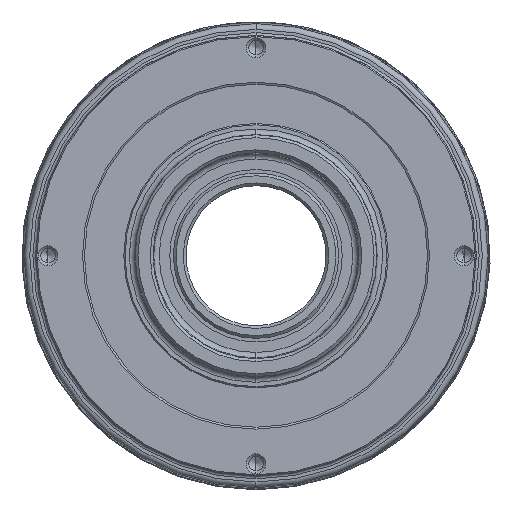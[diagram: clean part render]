
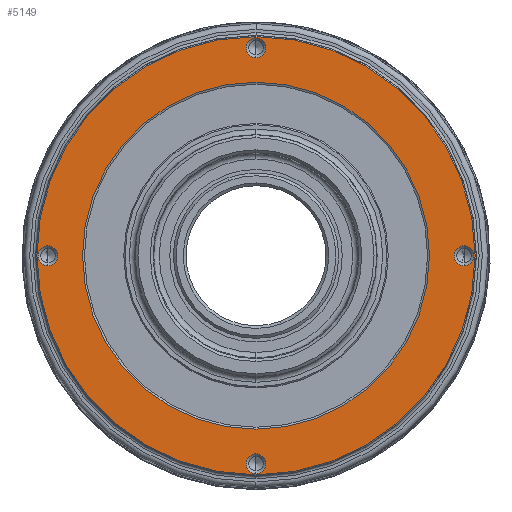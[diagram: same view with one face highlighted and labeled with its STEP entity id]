
A CAD part, front view. The second image highlights one B-rep face of the part: STEP entity #5149.
In plain terms, the highlighted planar face has unit normal (0, -1, 0).
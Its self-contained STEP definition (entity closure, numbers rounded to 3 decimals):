
#95 = ORIENTED_EDGE ( 'NONE', *, *, #10708, .T. ) ;
#112 = ORIENTED_EDGE ( 'NONE', *, *, #3949, .T. ) ;
#142 = CIRCLE ( 'NONE', #12187, 39.76 ) ;
#155 = DIRECTION ( 'NONE',  ( 0., 1., 0. ) ) ;
#158 = DIRECTION ( 'NONE',  ( 0., -1., 0. ) ) ;
#307 = DIRECTION ( 'NONE',  ( 0., 1., 0. ) ) ;
#382 = FACE_OUTER_BOUND ( 'NONE', #9178, .T. ) ;
#573 = VERTEX_POINT ( 'NONE', #11462 ) ;
#637 = DIRECTION ( 'NONE',  ( 0., -1., 0. ) ) ;
#747 = CARTESIAN_POINT ( 'NONE',  ( 37.75, 8., 0. ) ) ;
#883 = VERTEX_POINT ( 'NONE', #11224 ) ;
#1075 = EDGE_LOOP ( 'NONE', ( #6481, #12718 ) ) ;
#1127 = CARTESIAN_POINT ( 'NONE',  ( 0., 8., 0. ) ) ;
#1215 = DIRECTION ( 'NONE',  ( 0., 0., -1. ) ) ;
#1234 = CIRCLE ( 'NONE', #2800, 1.8 ) ;
#1239 = CARTESIAN_POINT ( 'NONE',  ( 37.75, 8., -1.8 ) ) ;
#1273 = CARTESIAN_POINT ( 'NONE',  ( 0., 8., 37.75 ) ) ;
#1295 = CARTESIAN_POINT ( 'NONE',  ( 0., 8., 37.75 ) ) ;
#1623 = AXIS2_PLACEMENT_3D ( 'NONE', #747, #11275, #2521 ) ;
#1647 = EDGE_CURVE ( 'NONE', #2464, #8685, #1234, .T. ) ;
#1689 = VERTEX_POINT ( 'NONE', #1239 ) ;
#2116 = EDGE_LOOP ( 'NONE', ( #5390, #112 ) ) ;
#2175 = AXIS2_PLACEMENT_3D ( 'NONE', #2336, #158, #1215 ) ;
#2213 = EDGE_CURVE ( 'NONE', #7012, #5434, #7005, .T. ) ;
#2236 = CARTESIAN_POINT ( 'NONE',  ( -37.75, 8., 1.8 ) ) ;
#2336 = CARTESIAN_POINT ( 'NONE',  ( 0., 8., 0. ) ) ;
#2464 = VERTEX_POINT ( 'NONE', #12401 ) ;
#2521 = DIRECTION ( 'NONE',  ( 0., 0., -1. ) ) ;
#2554 = CIRCLE ( 'NONE', #12286, 1.8 ) ;
#2675 = AXIS2_PLACEMENT_3D ( 'NONE', #1127, #12675, #4343 ) ;
#2711 = FACE_BOUND ( 'NONE', #1075, .T. ) ;
#2796 = CARTESIAN_POINT ( 'NONE',  ( 0., 8., 35.95 ) ) ;
#2800 = AXIS2_PLACEMENT_3D ( 'NONE', #4616, #12073, #5635 ) ;
#2829 = AXIS2_PLACEMENT_3D ( 'NONE', #13620, #3043, #11554 ) ;
#2948 = CIRCLE ( 'NONE', #1623, 1.8 ) ;
#3043 = DIRECTION ( 'NONE',  ( 0., 1., 0. ) ) ;
#3109 = EDGE_LOOP ( 'NONE', ( #10025, #95 ) ) ;
#3177 = AXIS2_PLACEMENT_3D ( 'NONE', #1273, #307, #5523 ) ;
#3442 = CARTESIAN_POINT ( 'NONE',  ( 0., 8., -37.75 ) ) ;
#3709 = ORIENTED_EDGE ( 'NONE', *, *, #4751, .F. ) ;
#3894 = EDGE_CURVE ( 'NONE', #4183, #6146, #9028, .T. ) ;
#3949 = EDGE_CURVE ( 'NONE', #8685, #2464, #11529, .T. ) ;
#4183 = VERTEX_POINT ( 'NONE', #2796 ) ;
#4343 = DIRECTION ( 'NONE',  ( 0., 0., -1. ) ) ;
#4616 = CARTESIAN_POINT ( 'NONE',  ( -37.75, 8., 0. ) ) ;
#4751 = EDGE_CURVE ( 'NONE', #5434, #7012, #8362, .T. ) ;
#4844 = CARTESIAN_POINT ( 'NONE',  ( 37.75, 8., 0. ) ) ;
#4848 = DIRECTION ( 'NONE',  ( 0., 0., -1. ) ) ;
#5066 = CIRCLE ( 'NONE', #8990, 1.8 ) ;
#5149 = ADVANCED_FACE ( 'NONE', ( #5510, #2711, #11513, #10508, #12181, #382 ), #11212, .T. ) ;
#5390 = ORIENTED_EDGE ( 'NONE', *, *, #1647, .T. ) ;
#5434 = VERTEX_POINT ( 'NONE', #13742 ) ;
#5510 = FACE_BOUND ( 'NONE', #2116, .T. ) ;
#5523 = DIRECTION ( 'NONE',  ( 0., 0., -1. ) ) ;
#5569 = EDGE_CURVE ( 'NONE', #8483, #11324, #2554, .T. ) ;
#5608 = DIRECTION ( 'NONE',  ( 0., 0., -1. ) ) ;
#5635 = DIRECTION ( 'NONE',  ( 0., 0., -1. ) ) ;
#5855 = AXIS2_PLACEMENT_3D ( 'NONE', #9070, #637, #10138 ) ;
#5916 = DIRECTION ( 'NONE',  ( 0., 1., 0. ) ) ;
#6146 = VERTEX_POINT ( 'NONE', #8988 ) ;
#6228 = DIRECTION ( 'NONE',  ( 0., 0., -1. ) ) ;
#6322 = VERTEX_POINT ( 'NONE', #9275 ) ;
#6481 = ORIENTED_EDGE ( 'NONE', *, *, #9064, .T. ) ;
#6786 = EDGE_LOOP ( 'NONE', ( #12365, #3709 ) ) ;
#6906 = DIRECTION ( 'NONE',  ( 0., 1., 0. ) ) ;
#7005 = CIRCLE ( 'NONE', #2175, 31.48 ) ;
#7012 = VERTEX_POINT ( 'NONE', #10593 ) ;
#7105 = CIRCLE ( 'NONE', #2675, 39.76 ) ;
#7140 = CARTESIAN_POINT ( 'NONE',  ( 0., 8., -35.95 ) ) ;
#7705 = DIRECTION ( 'NONE',  ( 0., 1., 0. ) ) ;
#7789 = DIRECTION ( 'NONE',  ( 0., 0., -1. ) ) ;
#8362 = CIRCLE ( 'NONE', #10758, 31.48 ) ;
#8483 = VERTEX_POINT ( 'NONE', #7140 ) ;
#8557 = EDGE_LOOP ( 'NONE', ( #12048, #11986 ) ) ;
#8685 = VERTEX_POINT ( 'NONE', #2236 ) ;
#8988 = CARTESIAN_POINT ( 'NONE',  ( 0., 8., 39.55 ) ) ;
#8990 = AXIS2_PLACEMENT_3D ( 'NONE', #1295, #7705, #11832 ) ;
#9028 = CIRCLE ( 'NONE', #3177, 1.8 ) ;
#9064 = EDGE_CURVE ( 'NONE', #11324, #8483, #9773, .T. ) ;
#9070 = CARTESIAN_POINT ( 'NONE',  ( 0., 8., 0. ) ) ;
#9143 = AXIS2_PLACEMENT_3D ( 'NONE', #13280, #6906, #7789 ) ;
#9178 = EDGE_LOOP ( 'NONE', ( #9999, #11262 ) ) ;
#9269 = AXIS2_PLACEMENT_3D ( 'NONE', #4844, #5916, #10217 ) ;
#9275 = CARTESIAN_POINT ( 'NONE',  ( 0., 8., -39.76 ) ) ;
#9282 = CARTESIAN_POINT ( 'NONE',  ( 0., 8., 0. ) ) ;
#9414 = CARTESIAN_POINT ( 'NONE',  ( 0., 8., 0. ) ) ;
#9773 = CIRCLE ( 'NONE', #2829, 1.8 ) ;
#9999 = ORIENTED_EDGE ( 'NONE', *, *, #13286, .F. ) ;
#10025 = ORIENTED_EDGE ( 'NONE', *, *, #10579, .T. ) ;
#10138 = DIRECTION ( 'NONE',  ( 0., 0., -1. ) ) ;
#10217 = DIRECTION ( 'NONE',  ( 0., 0., -1. ) ) ;
#10252 = CIRCLE ( 'NONE', #9269, 1.8 ) ;
#10471 = DIRECTION ( 'NONE',  ( 0., -1., 0. ) ) ;
#10484 = EDGE_CURVE ( 'NONE', #6146, #4183, #5066, .T. ) ;
#10508 = FACE_BOUND ( 'NONE', #8557, .T. ) ;
#10579 = EDGE_CURVE ( 'NONE', #1689, #573, #2948, .T. ) ;
#10593 = CARTESIAN_POINT ( 'NONE',  ( 0., 8., -31.48 ) ) ;
#10708 = EDGE_CURVE ( 'NONE', #573, #1689, #10252, .T. ) ;
#10758 = AXIS2_PLACEMENT_3D ( 'NONE', #9414, #10471, #6228 ) ;
#11212 = PLANE ( 'NONE',  #5855 ) ;
#11224 = CARTESIAN_POINT ( 'NONE',  ( 0., 8., 39.76 ) ) ;
#11262 = ORIENTED_EDGE ( 'NONE', *, *, #13576, .F. ) ;
#11275 = DIRECTION ( 'NONE',  ( 0., 1., 0. ) ) ;
#11324 = VERTEX_POINT ( 'NONE', #11809 ) ;
#11462 = CARTESIAN_POINT ( 'NONE',  ( 37.75, 8., 1.8 ) ) ;
#11513 = FACE_BOUND ( 'NONE', #3109, .T. ) ;
#11529 = CIRCLE ( 'NONE', #9143, 1.8 ) ;
#11554 = DIRECTION ( 'NONE',  ( 0., 0., -1. ) ) ;
#11809 = CARTESIAN_POINT ( 'NONE',  ( 0., 8., -39.55 ) ) ;
#11832 = DIRECTION ( 'NONE',  ( 0., 0., -1. ) ) ;
#11986 = ORIENTED_EDGE ( 'NONE', *, *, #10484, .T. ) ;
#12048 = ORIENTED_EDGE ( 'NONE', *, *, #3894, .T. ) ;
#12073 = DIRECTION ( 'NONE',  ( 0., 1., 0. ) ) ;
#12181 = FACE_BOUND ( 'NONE', #6786, .T. ) ;
#12187 = AXIS2_PLACEMENT_3D ( 'NONE', #9282, #12473, #4848 ) ;
#12286 = AXIS2_PLACEMENT_3D ( 'NONE', #3442, #155, #5608 ) ;
#12365 = ORIENTED_EDGE ( 'NONE', *, *, #2213, .F. ) ;
#12401 = CARTESIAN_POINT ( 'NONE',  ( -37.75, 8., -1.8 ) ) ;
#12473 = DIRECTION ( 'NONE',  ( 0., 1., 0. ) ) ;
#12675 = DIRECTION ( 'NONE',  ( 0., 1., 0. ) ) ;
#12718 = ORIENTED_EDGE ( 'NONE', *, *, #5569, .T. ) ;
#13280 = CARTESIAN_POINT ( 'NONE',  ( -37.75, 8., 0. ) ) ;
#13286 = EDGE_CURVE ( 'NONE', #883, #6322, #7105, .T. ) ;
#13576 = EDGE_CURVE ( 'NONE', #6322, #883, #142, .T. ) ;
#13620 = CARTESIAN_POINT ( 'NONE',  ( 0., 8., -37.75 ) ) ;
#13742 = CARTESIAN_POINT ( 'NONE',  ( 0., 8., 31.48 ) ) ;
